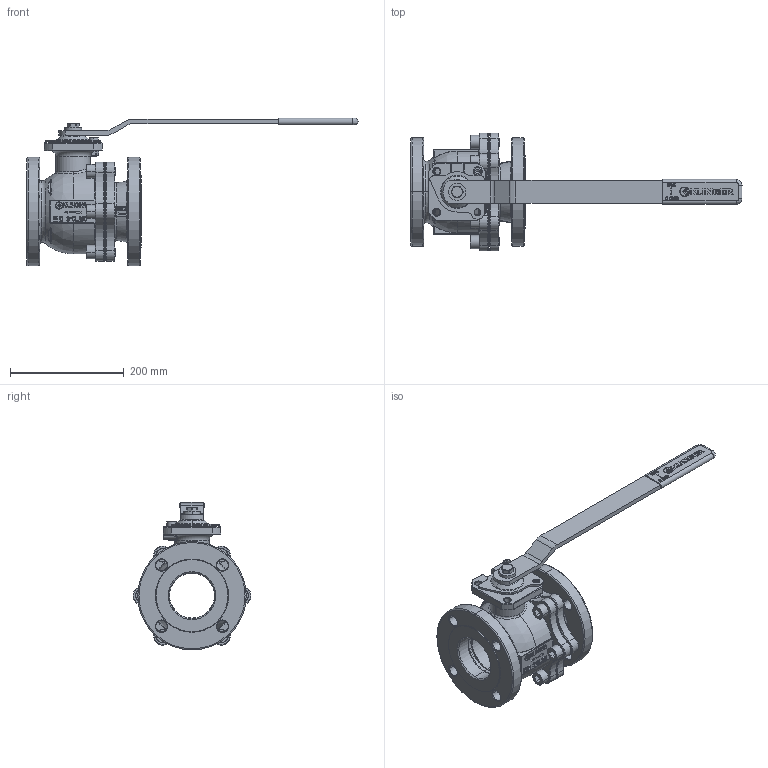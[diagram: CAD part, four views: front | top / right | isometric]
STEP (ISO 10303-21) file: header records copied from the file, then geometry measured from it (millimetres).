
FILE_DESCRIPTION((''),'2;1');
FILE_NAME('KHECL-3-C150_XC','2016-08-29T',('santag'),('RAND'),'PRO/ENGINEER BY PARAMETRIC TECHNOLOGY CORPORATION, 2016100','PRO/ENGINEER BY PARAMETRIC TECHNOLOGY CORPORATION, 2016100','');
FILE_SCHEMA(('CONFIG_CONTROL_DESIGN'));
Products named in the file (1): KHECL-3-C150_XC
Bounding box: 585 x 207.88 x 260.25 mm (x, y, z)
Volume: 3060150.2 mm3; surface area: 553734.3 mm2
Topology: 1 solids, 1 shells, 2963 faces, 7827 edges, 4973 vertices
Faces by surface type: plane 1924, cylinder 425, torus 295, bspline 139, cone 128, sphere 52
Entity records: 111023 total; most frequent: CARTESIAN_POINT 37899, ORIENTED_EDGE 15602, DIRECTION 14626, EDGE_CURVE 7801, VECTOR 5654, LINE 5654, VERTEX_POINT 4973, AXIS2_PLACEMENT_3D 4486
